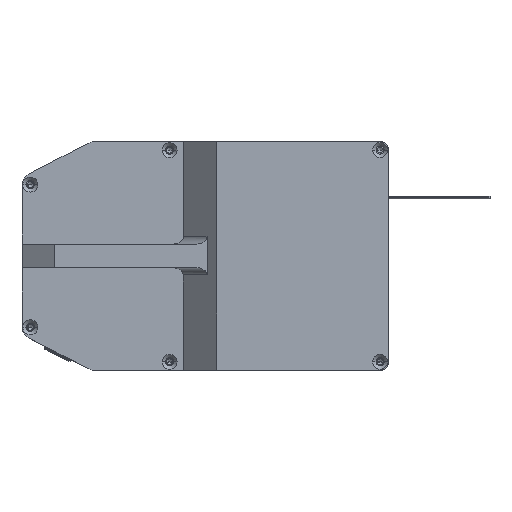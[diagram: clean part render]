
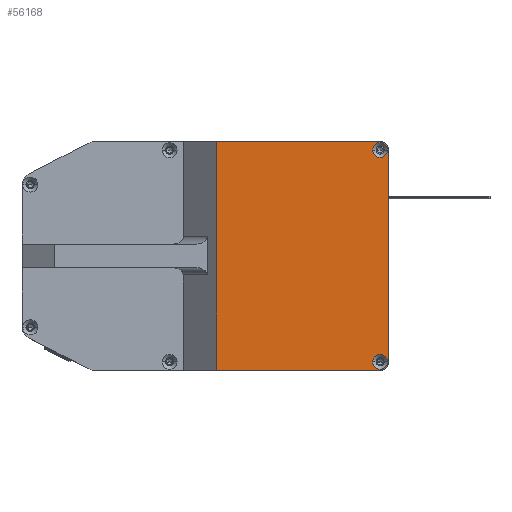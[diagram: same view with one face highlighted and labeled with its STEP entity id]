
A CAD part, top view. The second image highlights one B-rep face of the part: STEP entity #56168.
In plain terms, the highlighted planar face has unit normal (0, 0, 1).
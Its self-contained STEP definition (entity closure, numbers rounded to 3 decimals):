
#2836 = EDGE_CURVE ( 'NONE', #76831, #76840, #40433, .T. ) ;
#2855 = EDGE_CURVE ( 'NONE', #76878, #76856, #40439, .T. ) ;
#2866 = EDGE_CURVE ( 'NONE', #76885, #76860, #40427, .T. ) ;
#2901 = EDGE_CURVE ( 'NONE', #76864, #76848, #40509, .T. ) ;
#2943 = EDGE_CURVE ( 'NONE', #76856, #76878, #40475, .T. ) ;
#2947 = EDGE_CURVE ( 'NONE', #76840, #76831, #40506, .T. ) ;
#2950 = EDGE_CURVE ( 'NONE', #76848, #76885, #40495, .T. ) ;
#2972 = EDGE_CURVE ( 'NONE', #76861, #76874, #40477, .T. ) ;
#3045 = EDGE_CURVE ( 'NONE', #76860, #76861, #40572, .T. ) ;
#3119 = EDGE_CURVE ( 'NONE', #76874, #76864, #40603, .T. ) ;
#3232 = DIRECTION ( 'NONE',  ( 0., 0., -1. ) ) ;
#3242 = PLANE ( 'NONE',  #61313 ) ;
#3249 = CARTESIAN_POINT ( 'NONE',  ( 0., 0., 17. ) ) ;
#3282 = DIRECTION ( 'NONE',  ( -1., 0., 0. ) ) ;
#5456 = ORIENTED_EDGE ( 'NONE', *, *, #2901, .T. ) ;
#5468 = ORIENTED_EDGE ( 'NONE', *, *, #2943, .F. ) ;
#5478 = ORIENTED_EDGE ( 'NONE', *, *, #3119, .T. ) ;
#5483 = ORIENTED_EDGE ( 'NONE', *, *, #3045, .T. ) ;
#5486 = ORIENTED_EDGE ( 'NONE', *, *, #2950, .T. ) ;
#5488 = ORIENTED_EDGE ( 'NONE', *, *, #2836, .F. ) ;
#5512 = ORIENTED_EDGE ( 'NONE', *, *, #2972, .T. ) ;
#5538 = ORIENTED_EDGE ( 'NONE', *, *, #2947, .F. ) ;
#5551 = ORIENTED_EDGE ( 'NONE', *, *, #2866, .T. ) ;
#5571 = ORIENTED_EDGE ( 'NONE', *, *, #2855, .F. ) ;
#9760 = AXIS2_PLACEMENT_3D ( 'NONE', #39922, #39946, #39943 ) ;
#9768 = AXIS2_PLACEMENT_3D ( 'NONE', #39286, #39365, #39508 ) ;
#9843 = AXIS2_PLACEMENT_3D ( 'NONE', #41300, #41277, #41273 ) ;
#9879 = AXIS2_PLACEMENT_3D ( 'NONE', #41274, #41275, #41304 ) ;
#9902 = AXIS2_PLACEMENT_3D ( 'NONE', #41488, #41470, #41499 ) ;
#9934 = AXIS2_PLACEMENT_3D ( 'NONE', #41419, #41392, #41394 ) ;
#39286 = CARTESIAN_POINT ( 'NONE',  ( 150.5, 92.5, 17. ) ) ;
#39365 = DIRECTION ( 'NONE',  ( 0., 0., 1. ) ) ;
#39508 = DIRECTION ( 'NONE',  ( 1., 0., 0. ) ) ;
#39922 = CARTESIAN_POINT ( 'NONE',  ( 150.5, 3.5, 17. ) ) ;
#39943 = DIRECTION ( 'NONE',  ( 1., 0., 0. ) ) ;
#39946 = DIRECTION ( 'NONE',  ( 0., 0., 1. ) ) ;
#40401 = VECTOR ( 'NONE', #41227, 1000. ) ;
#40427 = LINE ( 'NONE', #41207, #40401 ) ;
#40433 = CIRCLE ( 'NONE', #9760, 3.15 ) ;
#40439 = CIRCLE ( 'NONE', #9768, 3.15 ) ;
#40475 = CIRCLE ( 'NONE', #9879, 3.15 ) ;
#40477 = LINE ( 'NONE', #41324, #40480 ) ;
#40480 = VECTOR ( 'NONE', #41316, 1000. ) ;
#40495 = LINE ( 'NONE', #41290, #40502 ) ;
#40502 = VECTOR ( 'NONE', #41305, 1000. ) ;
#40505 = VECTOR ( 'NONE', #41191, 1000. ) ;
#40506 = CIRCLE ( 'NONE', #9843, 3.15 ) ;
#40509 = LINE ( 'NONE', #41231, #40505 ) ;
#40572 = CIRCLE ( 'NONE', #9934, 3. ) ;
#40603 = CIRCLE ( 'NONE', #9902, 3. ) ;
#41191 = DIRECTION ( 'NONE',  ( -1., 0., 0. ) ) ;
#41207 = CARTESIAN_POINT ( 'NONE',  ( 29., 0., 17. ) ) ;
#41227 = DIRECTION ( 'NONE',  ( 1., 0., 0. ) ) ;
#41231 = CARTESIAN_POINT ( 'NONE',  ( 29., 96., 17. ) ) ;
#41273 = DIRECTION ( 'NONE',  ( 1., 0., 0. ) ) ;
#41274 = CARTESIAN_POINT ( 'NONE',  ( 150.5, 92.5, 17. ) ) ;
#41275 = DIRECTION ( 'NONE',  ( 0., 0., 1. ) ) ;
#41277 = DIRECTION ( 'NONE',  ( 0., 0., 1. ) ) ;
#41290 = CARTESIAN_POINT ( 'NONE',  ( 81.757, 96., 17. ) ) ;
#41300 = CARTESIAN_POINT ( 'NONE',  ( 150.5, 3.5, 17. ) ) ;
#41304 = DIRECTION ( 'NONE',  ( 1., 0., 0. ) ) ;
#41305 = DIRECTION ( 'NONE',  ( 0., -1., 0. ) ) ;
#41316 = DIRECTION ( 'NONE',  ( 0., 1., 0. ) ) ;
#41324 = CARTESIAN_POINT ( 'NONE',  ( 154., 0., 17. ) ) ;
#41392 = DIRECTION ( 'NONE',  ( 0., 0., 1. ) ) ;
#41394 = DIRECTION ( 'NONE',  ( -1., 0., 0. ) ) ;
#41419 = CARTESIAN_POINT ( 'NONE',  ( 151., 3., 17. ) ) ;
#41470 = DIRECTION ( 'NONE',  ( 0., 0., 1. ) ) ;
#41488 = CARTESIAN_POINT ( 'NONE',  ( 151., 93., 17. ) ) ;
#41499 = DIRECTION ( 'NONE',  ( -1., 0., 0. ) ) ;
#45439 = CARTESIAN_POINT ( 'NONE',  ( 153.65, 92.5, 17. ) ) ;
#45456 = CARTESIAN_POINT ( 'NONE',  ( 153.65, 3.5, 17. ) ) ;
#45480 = CARTESIAN_POINT ( 'NONE',  ( 147.35, 3.5, 17. ) ) ;
#45491 = CARTESIAN_POINT ( 'NONE',  ( 151., 0., 17. ) ) ;
#45500 = CARTESIAN_POINT ( 'NONE',  ( 154., 3., 17. ) ) ;
#45508 = CARTESIAN_POINT ( 'NONE',  ( 147.35, 92.5, 17. ) ) ;
#45515 = CARTESIAN_POINT ( 'NONE',  ( 81.757, 96., 17. ) ) ;
#45528 = CARTESIAN_POINT ( 'NONE',  ( 151., 96., 17. ) ) ;
#45551 = CARTESIAN_POINT ( 'NONE',  ( 154., 93., 17. ) ) ;
#45643 = CARTESIAN_POINT ( 'NONE',  ( 81.757, 0., 17. ) ) ;
#56168 = ADVANCED_FACE ( 'NONE', ( #69847, #69804, #69845 ), #3242, .F. ) ;
#61313 = AXIS2_PLACEMENT_3D ( 'NONE', #3249, #3232, #3282 ) ;
#69804 = FACE_BOUND ( 'NONE', #77423, .T. ) ;
#69845 = FACE_OUTER_BOUND ( 'NONE', #77351, .T. ) ;
#69847 = FACE_BOUND ( 'NONE', #77414, .T. ) ;
#76831 = VERTEX_POINT ( 'NONE', #45480 ) ;
#76840 = VERTEX_POINT ( 'NONE', #45456 ) ;
#76848 = VERTEX_POINT ( 'NONE', #45515 ) ;
#76856 = VERTEX_POINT ( 'NONE', #45439 ) ;
#76860 = VERTEX_POINT ( 'NONE', #45491 ) ;
#76861 = VERTEX_POINT ( 'NONE', #45500 ) ;
#76864 = VERTEX_POINT ( 'NONE', #45528 ) ;
#76874 = VERTEX_POINT ( 'NONE', #45551 ) ;
#76878 = VERTEX_POINT ( 'NONE', #45508 ) ;
#76885 = VERTEX_POINT ( 'NONE', #45643 ) ;
#77351 = EDGE_LOOP ( 'NONE', ( #5456, #5486, #5551, #5483, #5512, #5478 ) ) ;
#77414 = EDGE_LOOP ( 'NONE', ( #5468, #5571 ) ) ;
#77423 = EDGE_LOOP ( 'NONE', ( #5538, #5488 ) ) ;
